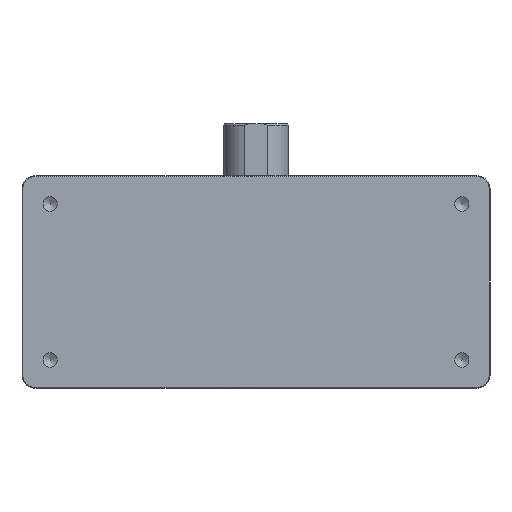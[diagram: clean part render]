
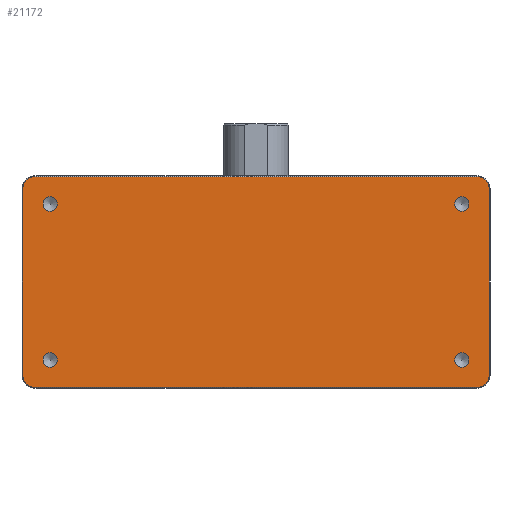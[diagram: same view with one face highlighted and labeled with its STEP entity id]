
A CAD part, front view. The second image highlights one B-rep face of the part: STEP entity #21172.
In plain terms, the highlighted planar face has unit normal (0, -1, 0).
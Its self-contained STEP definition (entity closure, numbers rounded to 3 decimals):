
#608 = CARTESIAN_POINT ( 'NONE',  ( 51., 0., 24.3 ) ) ;
#654 = DIRECTION ( 'NONE',  ( 0., -1., 0. ) ) ;
#1044 = VERTEX_POINT ( 'NONE', #11565 ) ;
#1338 = VERTEX_POINT ( 'NONE', #4340 ) ;
#1382 = LINE ( 'NONE', #18760, #6032 ) ;
#1422 = ORIENTED_EDGE ( 'NONE', *, *, #6383, .T. ) ;
#1479 = EDGE_CURVE ( 'NONE', #19157, #19157, #19292, .T. ) ;
#1597 = CIRCLE ( 'NONE', #17044, 2.8 ) ;
#1869 = CARTESIAN_POINT ( 'NONE',  ( 47.5, 0., 16.35 ) ) ;
#2063 = ORIENTED_EDGE ( 'NONE', *, *, #1479, .F. ) ;
#2093 = CARTESIAN_POINT ( 'NONE',  ( -47.5, 0., -18. ) ) ;
#2459 = DIRECTION ( 'NONE',  ( 0., 0., -1. ) ) ;
#2574 = DIRECTION ( 'NONE',  ( 0., 0., -1. ) ) ;
#2891 = CIRCLE ( 'NONE', #20583, 2.8 ) ;
#3163 = FACE_OUTER_BOUND ( 'NONE', #10929, .T. ) ;
#3189 = VERTEX_POINT ( 'NONE', #16869 ) ;
#3469 = DIRECTION ( 'NONE',  ( 0., -1., 0. ) ) ;
#3544 = ORIENTED_EDGE ( 'NONE', *, *, #21852, .F. ) ;
#3900 = ORIENTED_EDGE ( 'NONE', *, *, #5188, .T. ) ;
#3965 = ORIENTED_EDGE ( 'NONE', *, *, #5797, .T. ) ;
#4279 = CARTESIAN_POINT ( 'NONE',  ( -47.5, 0., 18. ) ) ;
#4340 = CARTESIAN_POINT ( 'NONE',  ( 53.8, 0., -21.5 ) ) ;
#4411 = LINE ( 'NONE', #21980, #10241 ) ;
#4742 = CARTESIAN_POINT ( 'NONE',  ( 51., 0., -24.3 ) ) ;
#4752 = DIRECTION ( 'NONE',  ( -1., 0., 0. ) ) ;
#5177 = DIRECTION ( 'NONE',  ( 0., -1., 0. ) ) ;
#5188 = EDGE_CURVE ( 'NONE', #15642, #9799, #14201, .T. ) ;
#5519 = ORIENTED_EDGE ( 'NONE', *, *, #20319, .T. ) ;
#5797 = EDGE_CURVE ( 'NONE', #1338, #22684, #1382, .T. ) ;
#5890 = DIRECTION ( 'NONE',  ( 0., -1., 0. ) ) ;
#5904 = PLANE ( 'NONE',  #8761 ) ;
#6032 = VECTOR ( 'NONE', #8486, 1000. ) ;
#6100 = CIRCLE ( 'NONE', #22334, 1.65 ) ;
#6383 = EDGE_CURVE ( 'NONE', #22777, #1338, #2891, .T. ) ;
#6904 = EDGE_LOOP ( 'NONE', ( #3544 ) ) ;
#7356 = CARTESIAN_POINT ( 'NONE',  ( 47.5, 0., -18. ) ) ;
#7474 = DIRECTION ( 'NONE',  ( 0., -1., 0. ) ) ;
#7529 = CARTESIAN_POINT ( 'NONE',  ( 51., 0., -21.5 ) ) ;
#7690 = LINE ( 'NONE', #20575, #9710 ) ;
#8486 = DIRECTION ( 'NONE',  ( 0., 0., 1. ) ) ;
#8740 = VECTOR ( 'NONE', #12467, 1000. ) ;
#8761 = AXIS2_PLACEMENT_3D ( 'NONE', #9372, #11067, #2459 ) ;
#8989 = ORIENTED_EDGE ( 'NONE', *, *, #14121, .T. ) ;
#9231 = DIRECTION ( 'NONE',  ( 0., 0., -1. ) ) ;
#9246 = EDGE_LOOP ( 'NONE', ( #2063 ) ) ;
#9325 = ORIENTED_EDGE ( 'NONE', *, *, #11000, .T. ) ;
#9351 = DIRECTION ( 'NONE',  ( 0., -1., 0. ) ) ;
#9355 = EDGE_CURVE ( 'NONE', #9590, #15642, #1597, .T. ) ;
#9372 = CARTESIAN_POINT ( 'NONE',  ( 0., 0., 0. ) ) ;
#9385 = CARTESIAN_POINT ( 'NONE',  ( -47.5, 0., -19.65 ) ) ;
#9441 = DIRECTION ( 'NONE',  ( 0., 0., -1. ) ) ;
#9590 = VERTEX_POINT ( 'NONE', #15623 ) ;
#9710 = VECTOR ( 'NONE', #4752, 1000. ) ;
#9718 = AXIS2_PLACEMENT_3D ( 'NONE', #17776, #19425, #18637 ) ;
#9799 = VERTEX_POINT ( 'NONE', #18503 ) ;
#10203 = AXIS2_PLACEMENT_3D ( 'NONE', #19501, #5177, #10243 ) ;
#10241 = VECTOR ( 'NONE', #11513, 1000. ) ;
#10243 = DIRECTION ( 'NONE',  ( 0., 0., -1. ) ) ;
#10781 = AXIS2_PLACEMENT_3D ( 'NONE', #16781, #16658, #15016 ) ;
#10929 = EDGE_LOOP ( 'NONE', ( #1422, #3965, #8989, #9325, #14429, #3900, #5519, #12480 ) ) ;
#10971 = FACE_BOUND ( 'NONE', #20223, .T. ) ;
#11000 = EDGE_CURVE ( 'NONE', #20430, #9590, #7690, .T. ) ;
#11067 = DIRECTION ( 'NONE',  ( 0., -1., 0. ) ) ;
#11513 = DIRECTION ( 'NONE',  ( 1., 0., 0. ) ) ;
#11565 = CARTESIAN_POINT ( 'NONE',  ( 47.5, 0., -19.65 ) ) ;
#12233 = CARTESIAN_POINT ( 'NONE',  ( -53.8, 0., -21.5 ) ) ;
#12301 = AXIS2_PLACEMENT_3D ( 'NONE', #4279, #5890, #14845 ) ;
#12467 = DIRECTION ( 'NONE',  ( 0., 0., -1. ) ) ;
#12480 = ORIENTED_EDGE ( 'NONE', *, *, #21604, .T. ) ;
#13159 = VERTEX_POINT ( 'NONE', #9385 ) ;
#13764 = CIRCLE ( 'NONE', #12301, 1.65 ) ;
#14121 = EDGE_CURVE ( 'NONE', #22684, #20430, #18159, .T. ) ;
#14164 = CARTESIAN_POINT ( 'NONE',  ( -53.8, 0., 21.5 ) ) ;
#14201 = LINE ( 'NONE', #12233, #8740 ) ;
#14429 = ORIENTED_EDGE ( 'NONE', *, *, #9355, .T. ) ;
#14492 = EDGE_LOOP ( 'NONE', ( #19665 ) ) ;
#14524 = FACE_BOUND ( 'NONE', #6904, .T. ) ;
#14641 = FACE_BOUND ( 'NONE', #14492, .T. ) ;
#14845 = DIRECTION ( 'NONE',  ( 0., 0., -1. ) ) ;
#15016 = DIRECTION ( 'NONE',  ( 0., 0., -1. ) ) ;
#15623 = CARTESIAN_POINT ( 'NONE',  ( -51., 0., 24.3 ) ) ;
#15642 = VERTEX_POINT ( 'NONE', #14164 ) ;
#15721 = EDGE_CURVE ( 'NONE', #21805, #21805, #13764, .T. ) ;
#15782 = DIRECTION ( 'NONE',  ( 0., 0., -1. ) ) ;
#16124 = CARTESIAN_POINT ( 'NONE',  ( -51., 0., 21.5 ) ) ;
#16144 = EDGE_CURVE ( 'NONE', #1044, #1044, #6100, .T. ) ;
#16517 = CARTESIAN_POINT ( 'NONE',  ( 53.8, 0., 21.5 ) ) ;
#16658 = DIRECTION ( 'NONE',  ( 0., -1., 0. ) ) ;
#16781 = CARTESIAN_POINT ( 'NONE',  ( 51., 0., 21.5 ) ) ;
#16869 = CARTESIAN_POINT ( 'NONE',  ( -51., 0., -24.3 ) ) ;
#17044 = AXIS2_PLACEMENT_3D ( 'NONE', #16124, #3469, #15782 ) ;
#17138 = ORIENTED_EDGE ( 'NONE', *, *, #16144, .F. ) ;
#17458 = AXIS2_PLACEMENT_3D ( 'NONE', #2093, #9351, #9231 ) ;
#17776 = CARTESIAN_POINT ( 'NONE',  ( 47.5, 0., 18. ) ) ;
#18159 = CIRCLE ( 'NONE', #10781, 2.8 ) ;
#18503 = CARTESIAN_POINT ( 'NONE',  ( -53.8, 0., -21.5 ) ) ;
#18637 = DIRECTION ( 'NONE',  ( 0., 0., -1. ) ) ;
#18760 = CARTESIAN_POINT ( 'NONE',  ( 53.8, 0., 21.5 ) ) ;
#18945 = CIRCLE ( 'NONE', #17458, 1.65 ) ;
#19157 = VERTEX_POINT ( 'NONE', #1869 ) ;
#19292 = CIRCLE ( 'NONE', #9718, 1.65 ) ;
#19425 = DIRECTION ( 'NONE',  ( 0., -1., 0. ) ) ;
#19501 = CARTESIAN_POINT ( 'NONE',  ( -51., 0., -21.5 ) ) ;
#19590 = CARTESIAN_POINT ( 'NONE',  ( -47.5, 0., 16.35 ) ) ;
#19665 = ORIENTED_EDGE ( 'NONE', *, *, #15721, .F. ) ;
#20223 = EDGE_LOOP ( 'NONE', ( #17138 ) ) ;
#20319 = EDGE_CURVE ( 'NONE', #9799, #3189, #20919, .T. ) ;
#20430 = VERTEX_POINT ( 'NONE', #608 ) ;
#20575 = CARTESIAN_POINT ( 'NONE',  ( -51., 0., 24.3 ) ) ;
#20583 = AXIS2_PLACEMENT_3D ( 'NONE', #7529, #654, #2574 ) ;
#20919 = CIRCLE ( 'NONE', #10203, 2.8 ) ;
#21172 = ADVANCED_FACE ( 'NONE', ( #3163, #10971, #21748, #14641, #14524 ), #5904, .T. ) ;
#21604 = EDGE_CURVE ( 'NONE', #3189, #22777, #4411, .T. ) ;
#21748 = FACE_BOUND ( 'NONE', #9246, .T. ) ;
#21805 = VERTEX_POINT ( 'NONE', #19590 ) ;
#21852 = EDGE_CURVE ( 'NONE', #13159, #13159, #18945, .T. ) ;
#21980 = CARTESIAN_POINT ( 'NONE',  ( 51., 0., -24.3 ) ) ;
#22334 = AXIS2_PLACEMENT_3D ( 'NONE', #7356, #7474, #9441 ) ;
#22684 = VERTEX_POINT ( 'NONE', #16517 ) ;
#22777 = VERTEX_POINT ( 'NONE', #4742 ) ;
